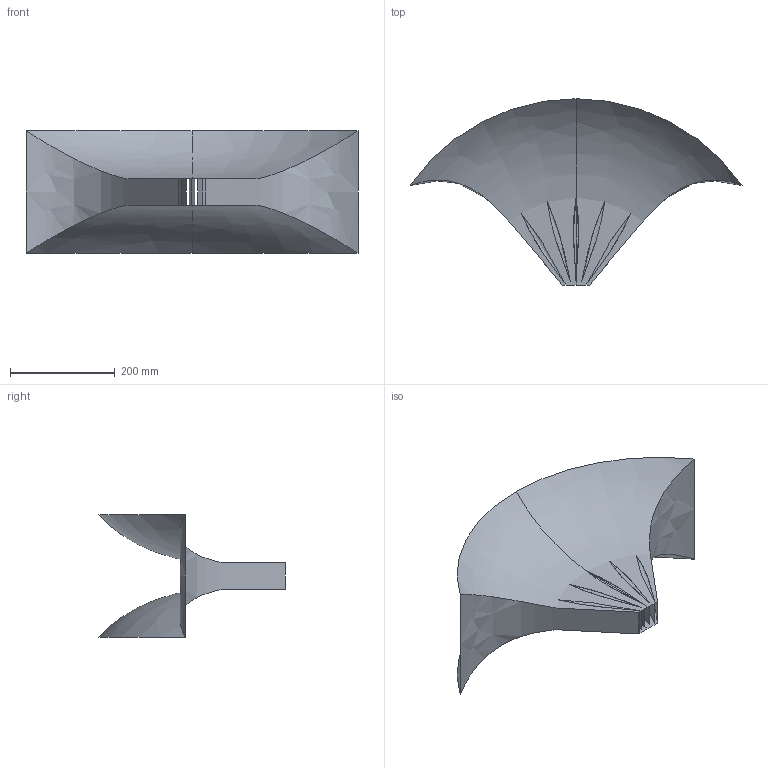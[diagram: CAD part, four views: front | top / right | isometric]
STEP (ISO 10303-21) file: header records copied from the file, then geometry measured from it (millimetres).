
FILE_DESCRIPTION(/* description */ (''),/* implementation_level */ '2;1');
FILE_NAME(/* name */ 'mk3b2_a1.step',/* time_stamp */ '2023-04-08T12:40:23+02:00',/* author */ (''),/* organization */ (''),/* preprocessor_version */ 'ST-DEVELOPER v19.2',/* originating_system */ 'Autodesk Translation Framework v12.4.0.73',/* authorisation */ '');
FILE_SCHEMA (('AUTOMOTIVE_DESIGN { 1 0 10303 214 3 1 1 }'));
Length unit declared in the file: millimetre
Products named in the file (1): (Unsaved)
Bounding box: 633.49 x 355.75 x 233.97 mm (x, y, z)
Volume: 258850.9 mm3; surface area: 406750.2 mm2
Topology: 5 solids, 6 shells, 28 faces, 76 edges, 56 vertices
Faces by surface type: bspline 28
Entity records: 23682 total; most frequent: CARTESIAN_POINT 23112, ORIENTED_EDGE 116, EDGE_CURVE 76, VERTEX_POINT 56, B_SPLINE_CURVE_WITH_KNOTS 48, EDGE_LOOP 36, DIRECTION 34, FACE_OUTER_BOUND 28
